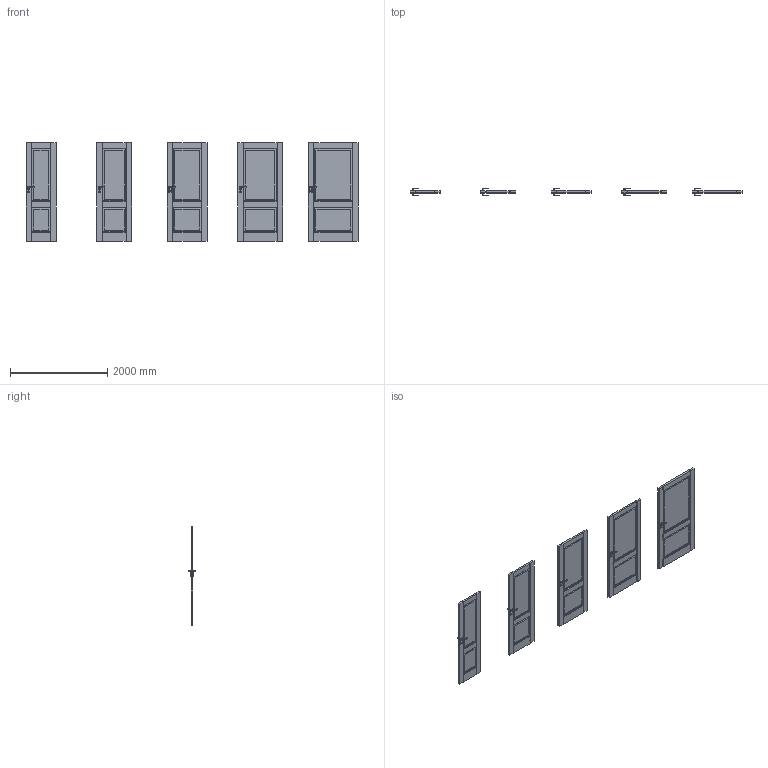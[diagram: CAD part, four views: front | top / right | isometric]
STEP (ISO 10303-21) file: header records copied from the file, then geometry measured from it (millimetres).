
FILE_DESCRIPTION(/* description */ (''),/* implementation_level */ '2;1');
FILE_NAME(/* name */ '050213_A_2-Skrzydło CORDOBA model pełne_ polska norma _PN__ bezprzylgowe..stp',/* time_stamp */ '2025-01-09T14:18:27+01:00',/* author */ (''),/* organization */ (''),/* preprocessor_version */ 'ST-DEVELOPER v16',/* originating_system */ 'SIEMENS PLM Software NX 11.0',/* authorisation */ '');
FILE_SCHEMA (('AUTOMOTIVE_DESIGN { 1 0 10303 214 3 1 1 1 }'));
Length unit declared in the file: millimetre
Products named in the file (1): bkni41204493tbry
Bounding box: 6818 x 153.13 x 2017 mm (x, y, z)
Volume: 221268186.9 mm3; surface area: 18947598.7 mm2
Topology: 25 solids, 25 shells, 1750 faces, 4600 edges, 2820 vertices
Faces by surface type: plane 1170, cylinder 280, bspline 160, sphere 140
Entity records: 57859 total; most frequent: CARTESIAN_POINT 16051, ORIENTED_EDGE 8920, DIRECTION 8122, EDGE_CURVE 4460, LINE 3380, VECTOR 3380, VERTEX_POINT 2820, AXIS2_PLACEMENT_3D 2371
